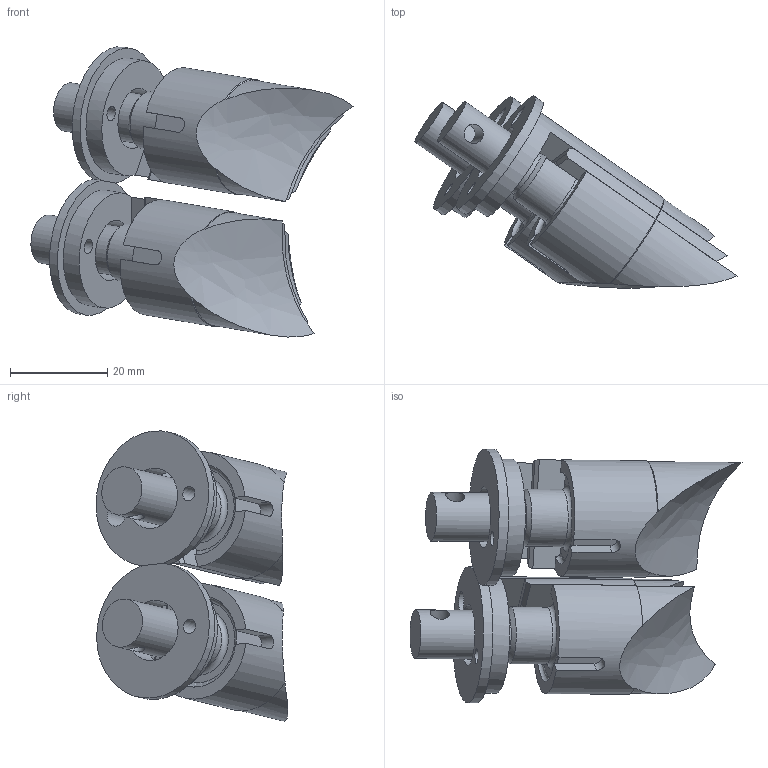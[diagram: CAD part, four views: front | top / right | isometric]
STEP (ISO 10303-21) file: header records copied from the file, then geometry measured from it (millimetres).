
FILE_DESCRIPTION(/* description */ (''),/* implementation_level */ '2;1');
FILE_NAME(/* name */ 'ts200-valves.step',/* time_stamp */ '2026-06-04T16:18:09-07:00',/* author */ (''),/* organization */ (''),/* preprocessor_version */ 'ST-DEVELOPER v20.1',/* originating_system */ 'Autodesk Translation Framework v15.8.0.0',/* authorisation */ '');
FILE_SCHEMA (('AUTOMOTIVE_DESIGN { 1 0 10303 214 3 1 1 }'));
Length unit declared in the file: millimetre
Products named in the file (1): ts200-valves
Bounding box: 66.08 x 39.38 x 59.51 mm (x, y, z)
Volume: 31256.1 mm3; surface area: 18792.3 mm2
Topology: 6 solids, 6 shells, 148 faces, 386 edges, 256 vertices
Faces by surface type: plane 72, cylinder 50, cone 12, bspline 10, torus 4
Full cylindrical faces by diameter (mm): 3 x2, 4 x2, 4.5 x2, 5 x4, 10 x2, 12.5 x2, 23.9 x2
Entity records: 5482 total; most frequent: CARTESIAN_POINT 1915, ORIENTED_EDGE 772, DIRECTION 672, EDGE_CURVE 386, VERTEX_POINT 256, AXIS2_PLACEMENT_3D 249, EDGE_LOOP 174, LINE 174
